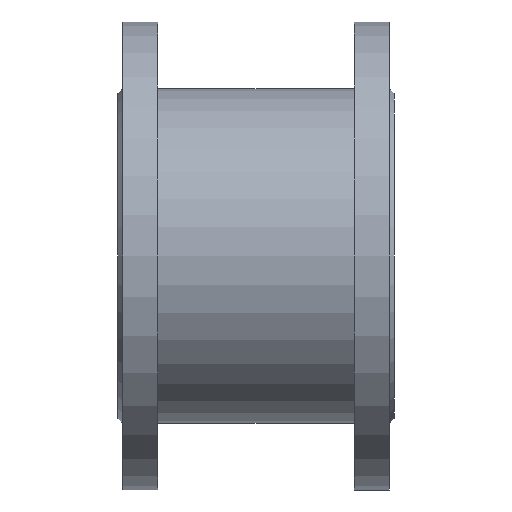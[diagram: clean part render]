
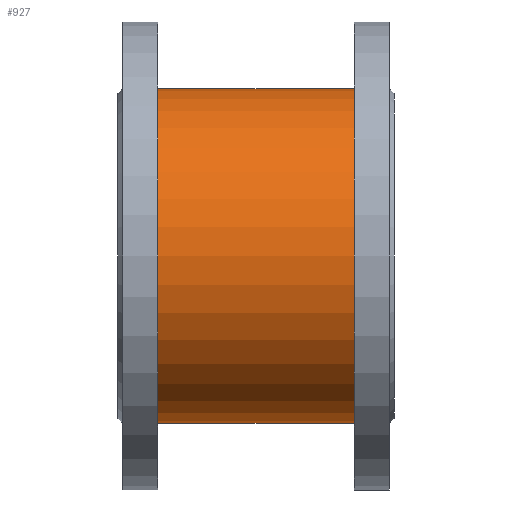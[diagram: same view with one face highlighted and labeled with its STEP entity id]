
A CAD part, front view. The second image highlights one B-rep face of the part: STEP entity #927.
In plain terms, the highlighted cylindrical face has radius 71.5 mm (diameter 143 mm), a partial arc.
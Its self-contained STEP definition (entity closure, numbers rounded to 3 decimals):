
#69 = EDGE_CURVE ( 'NONE', #1815, #1891, #200, .T. ) ;
#89 = DIRECTION ( 'NONE',  ( 0., 0., 1. ) ) ;
#126 = AXIS2_PLACEMENT_3D ( 'NONE', #1960, #310, #2236 ) ;
#158 = CARTESIAN_POINT ( 'NONE',  ( 42., 0., -71.5 ) ) ;
#173 = VECTOR ( 'NONE', #2728, 1000. ) ;
#200 = CIRCLE ( 'NONE', #1578, 71.5 ) ;
#254 = LINE ( 'NONE', #768, #3094 ) ;
#310 = DIRECTION ( 'NONE',  ( -1., 0., 0. ) ) ;
#711 = DIRECTION ( 'NONE',  ( 0., 0., 1. ) ) ;
#728 = ORIENTED_EDGE ( 'NONE', *, *, #2653, .T. ) ;
#760 = CIRCLE ( 'NONE', #126, 71.5 ) ;
#768 = CARTESIAN_POINT ( 'NONE',  ( -74.482, 0., 71.5 ) ) ;
#775 = CYLINDRICAL_SURFACE ( 'NONE', #2106, 71.5 ) ;
#868 = FACE_OUTER_BOUND ( 'NONE', #1320, .T. ) ;
#927 = ADVANCED_FACE ( 'NONE', ( #868 ), #775, .T. ) ;
#1053 = DIRECTION ( 'NONE',  ( -1., 0., 0. ) ) ;
#1254 = DIRECTION ( 'NONE',  ( -1., 0., 0. ) ) ;
#1320 = EDGE_LOOP ( 'NONE', ( #1820, #728, #2716, #1700 ) ) ;
#1556 = EDGE_CURVE ( 'NONE', #3443, #1891, #254, .T. ) ;
#1578 = AXIS2_PLACEMENT_3D ( 'NONE', #3351, #1738, #89 ) ;
#1623 = CARTESIAN_POINT ( 'NONE',  ( -74.482, 0., -71.5 ) ) ;
#1700 = ORIENTED_EDGE ( 'NONE', *, *, #69, .F. ) ;
#1738 = DIRECTION ( 'NONE',  ( -1., 0., 0. ) ) ;
#1815 = VERTEX_POINT ( 'NONE', #3344 ) ;
#1820 = ORIENTED_EDGE ( 'NONE', *, *, #1896, .F. ) ;
#1883 = CARTESIAN_POINT ( 'NONE',  ( -42., 0., 71.5 ) ) ;
#1891 = VERTEX_POINT ( 'NONE', #1883 ) ;
#1896 = EDGE_CURVE ( 'NONE', #3141, #1815, #2299, .T. ) ;
#1960 = CARTESIAN_POINT ( 'NONE',  ( 42., 0., 0. ) ) ;
#2106 = AXIS2_PLACEMENT_3D ( 'NONE', #2641, #1254, #711 ) ;
#2236 = DIRECTION ( 'NONE',  ( 0., 0., 1. ) ) ;
#2299 = LINE ( 'NONE', #1623, #173 ) ;
#2641 = CARTESIAN_POINT ( 'NONE',  ( -74.482, 0., 0. ) ) ;
#2653 = EDGE_CURVE ( 'NONE', #3141, #3443, #760, .T. ) ;
#2716 = ORIENTED_EDGE ( 'NONE', *, *, #1556, .T. ) ;
#2728 = DIRECTION ( 'NONE',  ( -1., 0., 0. ) ) ;
#3055 = CARTESIAN_POINT ( 'NONE',  ( 42., 0., 71.5 ) ) ;
#3094 = VECTOR ( 'NONE', #1053, 1000. ) ;
#3141 = VERTEX_POINT ( 'NONE', #158 ) ;
#3344 = CARTESIAN_POINT ( 'NONE',  ( -42., 0., -71.5 ) ) ;
#3351 = CARTESIAN_POINT ( 'NONE',  ( -42., 0., 0. ) ) ;
#3443 = VERTEX_POINT ( 'NONE', #3055 ) ;
